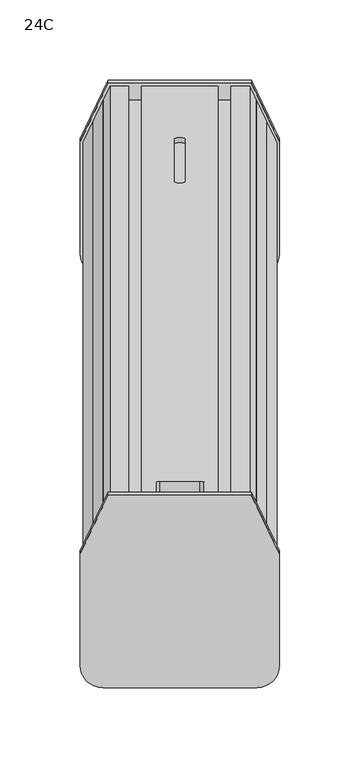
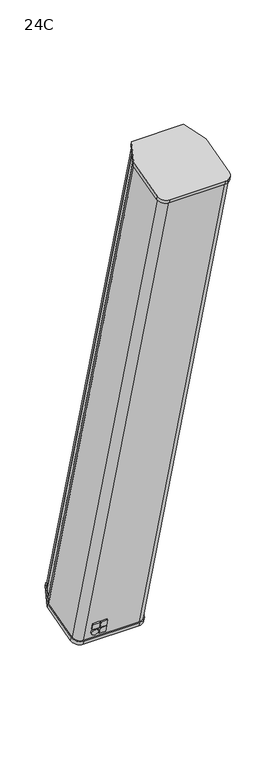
"""IFC4 building model written with IfcOpenShell, lengths in millimetres: proxy geometry, d&b xC-Series 24C Column : 24C."""

import ifcopenshell
import ifcopenshell.guid

model = None  # the IFC model being written
_history = None  # IfcOwnerHistory: only IFC2X3 demands one
_inside = {}  # id of a spatial element -> (the spatial element, [elements in it])
_under = {}  # id of a project, library or spatial element -> (it, [spatial elements below it])
_declared = {}  # id of a project -> (the project, [libraries it declares])
_typed = {}  # id of a type object -> (the type object, [elements of that type])
_made_of = {}  # id of a material, layer set ... -> (it, [elements and type objects made of it])


def new_model(schema):
    """Start an empty IFC model of exactly this schema.

    Asked for "IFC4X3", IfcOpenShell would pick the latest addendum, in which some entities
    have other attributes; the version numbers below select the first issue.
    IFC2X3 requires an IfcOwnerHistory on every rooted entity: one is made here for all.
    """
    global model, _history
    if schema == "IFC4X3":
        model = ifcopenshell.file(schema_version=(4, 3, 0, 0))
    else:
        model = ifcopenshell.file(schema=schema)
    _inside.clear()
    _under.clear()
    _declared.clear()
    _typed.clear()
    _made_of.clear()
    _history = None
    if model.schema == "IFC2X3":
        org = make("IfcOrganization", Name="unknown")
        user = make(
            "IfcPersonAndOrganization",
            ThePerson=make("IfcPerson", FamilyName="unknown"),
            TheOrganization=org,
        )
        app = make(
            "IfcApplication",
            ApplicationDeveloper=org,
            Version="unknown",
            ApplicationFullName="unknown",
            ApplicationIdentifier="unknown",
        )
        _history = make(
            "IfcOwnerHistory",
            OwningUser=user,
            OwningApplication=app,
            ChangeAction="ADDED",
            CreationDate=0,
        )
    return model


def make(cls, **values):
    """One entity of the class cls with the attributes given. An attribute that is None is left unset."""
    return model.create_entity(
        cls, **{name: value for name, value in values.items() if value is not None}
    )


def rooted(cls, **values):
    """An entity with a GlobalId (a new one), such as an element, a storey or a relation."""
    return make(cls, GlobalId=ifcopenshell.guid.new(), OwnerHistory=_history, **values)


def si_unit(unit_type, name, prefix=None):
    """IfcSIUnit, for example si_unit("LENGTHUNIT", "METRE", prefix="MILLI")."""
    return make("IfcSIUnit", UnitType=unit_type, Prefix=prefix, Name=name)


def assignment(units):
    """IfcUnitAssignment: the units of a project."""
    return None if units is None else make("IfcUnitAssignment", Units=units)


def point(xyz):
    """IfcCartesianPoint."""
    return None if xyz is None else make("IfcCartesianPoint", Coordinates=xyz)


def direction(xyz):
    """IfcDirection."""
    return None if xyz is None else make("IfcDirection", DirectionRatios=xyz)


def frame(location, z_axis=None, x_axis=None):
    """IfcAxis2Placement3D, a coordinate frame: its origin and axes. An axis left out is left unset."""
    return make(
        "IfcAxis2Placement3D",
        Location=point(location),
        Axis=direction(z_axis),
        RefDirection=direction(x_axis),
    )


def frame_2d(location, x_axis=None):
    """IfcAxis2Placement2D, a coordinate frame in the plane: its origin and x axis."""
    return make(
        "IfcAxis2Placement2D", Location=point(location), RefDirection=direction(x_axis)
    )


def origin():
    """The frame at (0, 0, 0) with its axes left unset."""
    return frame((0.0, 0.0, 0.0))


def place(relative_to, where):
    """IfcLocalPlacement: puts the frame where relative to a parent placement (None: the world)."""
    return make(
        "IfcLocalPlacement", PlacementRelTo=relative_to, RelativePlacement=where
    )


def context(
    kind, dimensions, precision=None, world=None, true_north=None, identifier=None
):
    """IfcGeometricRepresentationContext, for example the 3D "Model" context."""
    return make(
        "IfcGeometricRepresentationContext",
        ContextIdentifier=identifier,
        ContextType=kind,
        CoordinateSpaceDimension=dimensions,
        Precision=precision,
        WorldCoordinateSystem=world,
        TrueNorth=true_north,
    )


def project(units=None, contexts=None):
    """IfcProject with its units and contexts."""
    return rooted(
        "IfcProject",
        Name="project",
        RepresentationContexts=contexts,
        UnitsInContext=assignment(units),
    )


def spatial(cls, under=None, at=None, **own):
    """A site, building, storey or space (cls), placed at a placement, below another one or the project."""
    s = rooted(cls, ObjectPlacement=at, **own)
    if under is not None:
        _under.setdefault(under.id(), (under, []))[1].append(s)
    return s


def polyline(points):
    """IfcPolyline through the points."""
    return make("IfcPolyline", Points=[point(p) for p in points])


def circle_curve(where, radius):
    """IfcCircle in the frame where."""
    return make("IfcCircle", Position=where, Radius=radius)


def trimmed(basis, trim1, trim2, sense, master):
    """IfcTrimmedCurve: the piece of a basis curve between two trims."""
    return make(
        "IfcTrimmedCurve",
        BasisCurve=basis,
        Trim1=trim1,
        Trim2=trim2,
        SenseAgreement=sense,
        MasterRepresentation=master,
    )


def segment(curve, same_sense, transition):
    """IfcCompositeCurveSegment."""
    return make(
        "IfcCompositeCurveSegment",
        Transition=transition,
        SameSense=same_sense,
        ParentCurve=curve,
    )


def composite_curve(segments, self_intersect=None):
    """IfcCompositeCurve: segments joined end to end."""
    return make("IfcCompositeCurve", Segments=segments, SelfIntersect=self_intersect)


def outline(outer, holes=None, kind="AREA"):
    """IfcArbitraryClosedProfileDef: a profile drawn as a closed curve; with holes, ...WithVoids."""
    if holes is None:
        return make("IfcArbitraryClosedProfileDef", ProfileType=kind, OuterCurve=outer)
    return make(
        "IfcArbitraryProfileDefWithVoids",
        ProfileType=kind,
        OuterCurve=outer,
        InnerCurves=holes,
    )


def extrude(swept, where, along, depth):
    """IfcExtrudedAreaSolid: the profile swept, set in the frame where, extruded along a direction by depth."""
    return make(
        "IfcExtrudedAreaSolid",
        SweptArea=swept,
        Position=where,
        ExtrudedDirection=direction(along),
        Depth=depth,
    )


def shape(context_of_items, identifier, shape_type, items):
    """IfcShapeRepresentation: the items that make up one representation, for example the "Body"."""
    return make(
        "IfcShapeRepresentation",
        ContextOfItems=context_of_items,
        RepresentationIdentifier=identifier,
        RepresentationType=shape_type,
        Items=items,
    )


def source(mapping_origin, context_of_items, identifier, shape_type, items):
    """IfcRepresentationMap: a shape defined once, which mapped items show again and again."""
    return make(
        "IfcRepresentationMap",
        MappingOrigin=mapping_origin,
        MappedRepresentation=shape(context_of_items, identifier, shape_type, items),
    )


def transform(
    local_origin,
    x_axis=None,
    y_axis=None,
    z_axis=None,
    scale=None,
    scale2=None,
    scale3=None,
    uniform=True,
):
    """IfcCartesianTransformationOperator3D, or its non-uniform kind. x_axis, y_axis, z_axis: its Axis1, 2, 3."""
    if uniform:
        return make(
            "IfcCartesianTransformationOperator3D",
            Axis1=direction(x_axis),
            Axis2=direction(y_axis),
            LocalOrigin=point(local_origin),
            Scale=scale,
            Axis3=direction(z_axis),
        )
    return make(
        "IfcCartesianTransformationOperator3DnonUniform",
        Axis1=direction(x_axis),
        Axis2=direction(y_axis),
        LocalOrigin=point(local_origin),
        Scale=scale,
        Axis3=direction(z_axis),
        Scale2=scale2,
        Scale3=scale3,
    )


def mapped(mapping_source, mapping_target):
    """IfcMappedItem: shows the shape of a source again, moved by a transform."""
    return make(
        "IfcMappedItem", MappingSource=mapping_source, MappingTarget=mapping_target
    )


def made_of(thing, what):
    """Note that an element or type object is made of a material, layer set ...; save() writes the relation."""
    if what is not None:
        _made_of.setdefault(what.id(), (what, []))[1].append(thing)
    return thing


def element(
    cls,
    number,
    at=None,
    inside=None,
    cuts=None,
    type_object=None,
    material=None,
    context=None,
    identifier="Body",
    shape_type=None,
    held_by="IfcProductDefinitionShape",
    body=None,
    shapes=None,
    **own,
):
    """One element of the class cls, such as IfcWall. Its Tag is "e" and its number.

    at: its placement. inside: the storey or other place that contains it. cuts: it is an
    opening in that element (IfcRelVoidsElement). A single representation is given by context,
    identifier, shape_type and body (its items); several are given by shapes. held_by: the class
    of the entity that holds the representations. save() writes the other relations.
    """
    e = rooted(cls, Tag="e%d" % number, ObjectPlacement=at, **own)
    if body is not None:
        shapes = [shape(context, identifier, shape_type, body)]
    if shapes is not None:
        e.Representation = make(held_by, Representations=shapes)
    if inside is not None:
        _inside.setdefault(inside.id(), (inside, []))[1].append(e)
    if cuts is not None:
        rooted(
            "IfcRelVoidsElement", RelatingBuildingElement=cuts, RelatedOpeningElement=e
        )
    if type_object is not None:
        _typed.setdefault(type_object.id(), (type_object, []))[1].append(e)
    return made_of(e, material)


def aggregate(whole, parts):
    """IfcRelAggregates: a whole, such as a stair, and the parts it consists of."""
    return rooted("IfcRelAggregates", RelatingObject=whole, RelatedObjects=parts)


def save(model, path):
    """Write the relations noted so far, then the file.

    IfcRelAggregates (storeys below a building ...), IfcRelContainedInSpatialStructure (elements
    in a storey), IfcRelDefinesByType, IfcRelAssociatesMaterial and IfcRelDeclares: one each for
    every whole, place, type object, material and project.
    """
    for whole, parts in _under.values():
        aggregate(whole, parts)
    for where, things in _inside.values():
        rooted(
            "IfcRelContainedInSpatialStructure",
            RelatedElements=things,
            RelatingStructure=where,
        )
    for kind, things in _typed.values():
        rooted("IfcRelDefinesByType", RelatedObjects=things, RelatingType=kind)
    for what, things in _made_of.values():
        rooted("IfcRelAssociatesMaterial", RelatedObjects=things, RelatingMaterial=what)
    for by, libraries in _declared.values():
        rooted("IfcRelDeclares", RelatingContext=by, RelatedDefinitions=libraries)
    model.write(path)


def plane_surface(at):
    """IfcPlane: the flat surface through the origin of the frame at, square to its z axis."""
    return make("IfcPlane", Position=at)


def cylinder_surface(at, radius):
    """IfcCylindricalSurface: all points at the distance radius from the z axis of the frame at."""
    return make("IfcCylindricalSurface", Position=at, Radius=radius)


def revolved_surface(curve, axis_point, axis_direction):
    """IfcSurfaceOfRevolution: the curve turned about the line through axis_point along axis_direction."""
    return make(
        "IfcSurfaceOfRevolution",
        SweptCurve=make("IfcArbitraryOpenProfileDef", ProfileType="CURVE", Curve=curve),
        AxisPosition=make("IfcAxis1Placement", Location=point(axis_point), Axis=direction(axis_direction)),
    )


def advanced_brep(points, edges, surfaces, faces):
    """IfcAdvancedBrep: a solid bounded by faces that lie on surfaces and meet in shared edges.

    An edge is (start, end): straight between two places in points (the first is 0);
    or (start, end, curve); or (start, end, curve, False) where it runs against its curve.
    A face is (place in surfaces, loops), or (place, loops, False) where it looks against
    its surface's normal. A loop lists edges by number (the first is 1), with a minus sign
    where the edge is run from its end to its start. The first loop is the outer one.
    """
    corners = [point(p) for p in points]
    vertices = [make("IfcVertexPoint", VertexGeometry=c) for c in corners]
    made = []
    for start, end, *more in edges:
        made.append(
            make(
                "IfcEdgeCurve",
                EdgeStart=vertices[start],
                EdgeEnd=vertices[end],
                EdgeGeometry=more[0] if more else make("IfcPolyline", Points=[corners[start], corners[end]]),
                SameSense=more[1] if len(more) > 1 else True,
            )
        )
    hull = []
    for where, loops, *sense in faces:
        bounds = []
        for j, loop in enumerate(loops):
            ring = [make("IfcOrientedEdge", EdgeElement=made[abs(k) - 1], Orientation=k > 0) for k in loop]
            bounds.append(
                make(
                    "IfcFaceOuterBound" if j == 0 else "IfcFaceBound",
                    Bound=make("IfcEdgeLoop", EdgeList=ring),
                    Orientation=True,
                )
            )
        hull.append(make("IfcAdvancedFace", Bounds=bounds, FaceSurface=surfaces[where], SameSense=sense[0] if sense else True))
    return make("IfcAdvancedBrep", Outer=make("IfcClosedShell", CfsFaces=hull))


def proxy_24c_0f04a8cb(model_context):
    return source(origin(), model_context, "Body", "SolidModel", [
        extrude(outline(polyline([(-2.6999999, 0.0), (-2.6999999, -2.4999999), (-17.6861683, -2.5), (-17.6861684, 0.0), (-2.6999999, 0.0)])), frame((44.4204589, 178.383665, -462.593398), z_axis=(0.0, -0.2588190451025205, 0.9659258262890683), x_axis=(-0.4226182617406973, 0.8754260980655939, 0.23456971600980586)), (0.0, 0.0, 1.0), 986.0),
        extrude(outline(polyline([(35.8102678, 82.5855356), (26.1773443, 94.0656066), (28.0924555, 95.6725756), (37.7253788, 84.1925046), (35.8102678, 82.5855356)])), frame((44.4204589, 178.383665, -462.593398), z_axis=(0.0, -0.2588190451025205, 0.9659258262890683), x_axis=(-0.4226182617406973, 0.8754260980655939, 0.23456971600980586)), (0.0, 0.0, 1.0), 986.0),
        advanced_brep(
        [(-32.05, -69.4007582, 491.7952798), (-43.601115, -69.4007582, 491.7952798), (-47.8272976, -78.1550192, 489.4495827), (-45.5615282, -79.1755639, 489.1761285), (-51.8949566, -92.2948468, 485.6608273), (-54.1607261, -91.2743021, 485.9342814), (-60.5, -104.4056936, 482.4157357), (-60.5, -173.9256513, 463.7879191), (-48.212132, -185.7948203, 460.6075849), (48.212132, -185.7948203, 460.6075849), (60.5, -173.9256513, 463.7879191), (60.5, -104.4056936, 482.4157357), (54.1607261, -91.2743021, 485.9342814), (51.8949566, -92.2948468, 485.6608273), (45.5615282, -79.1755639, 489.1761285), (47.8272976, -78.1550192, 489.4495827), (43.601115, -69.4007582, 491.7952798), (32.05, -69.4007582, 491.7952798), (32.05, -71.5257958, 491.2258777), (36.2500003, -71.5257958, 491.2258777), (36.2500003, -74.1864047, 490.5129697), (32.2044662, -78.0940906, 489.4659084), (23.7999989, -78.0940906, 489.4659084), (19.7499997, -74.1820918, 490.5141254), (19.7499997, -71.5257958, 491.2258777), (23.95, -71.5257958, 491.2258777), (23.95, -69.4007582, 491.7952798), (15.0, -69.4007582, 491.7952798), (15.0, -79.0600165, 489.2070894), (-15.0, -79.0600165, 489.2070894), (-15.0, -69.4007582, 491.7952798), (-23.95, -69.4007582, 491.7952798), (-23.95, -71.5257958, 491.2258777), (-19.7499997, -71.5257958, 491.2258777), (-19.7499997, -74.1820918, 490.5141254), (-23.7999989, -78.0940906, 489.4659084), (-32.2044662, -78.0940906, 489.4659084), (-36.2500003, -74.1864047, 490.5129697), (-36.2500003, -71.5257958, 491.2258777), (-32.05, -71.5257958, 491.2258777), (-32.05, 185.7948203, -460.6075849), (-32.05, 183.6697827, -461.176987), (-36.2500003, 183.6697827, -461.176987), (-36.2500003, 181.0091737, -461.889895), (-32.2044662, 177.1014878, -462.9369563), (-23.7999989, 177.1014878, -462.9369563), (-19.7499997, 181.0134867, -461.8887394), (-19.7499997, 183.6697827, -461.176987), (-23.95, 183.6697827, -461.176987), (-23.95, 185.7948203, -460.6075849), (23.95, 185.7948203, -460.6075849), (23.95, 183.6697827, -461.176987), (19.7499997, 183.6697827, -461.176987), (19.7499997, 181.0134867, -461.8887394), (23.7999989, 177.1014878, -462.9369563), (32.2044662, 177.1014878, -462.9369563), (36.2500003, 181.0091737, -461.889895), (36.2500003, 183.6697827, -461.176987), (32.05, 183.6697827, -461.176987), (32.05, 185.7948203, -460.6075849), (43.601115, 185.7948203, -460.6075849), (47.8272976, 177.0405593, -462.9532821), (45.5615282, 176.0200146, -463.2267362), (51.8949566, 162.9007316, -466.7420375), (54.1607261, 163.9212764, -466.4685833), (60.5, 150.7898849, -469.9871291), (60.5, 81.2699272, -488.6149456), (48.212132, 69.4007582, -491.7952798), (-48.212132, 69.4007582, -491.7952798), (-60.5, 81.2699272, -488.6149456), (-60.5, 150.7898849, -469.9871291), (-54.1607261, 163.9212764, -466.4685833), (-51.8949566, 162.9007316, -466.7420375), (-45.5615282, 176.0200146, -463.2267362), (-47.8272976, 177.0405593, -462.9532821), (-43.601115, 185.7948203, -460.6075849), (-15.0, -61.2479583, 461.3686163), (-12.5, -60.6009107, 458.9538017), (12.5, -60.6009107, 458.9538017), (15.0, -61.2479583, 461.3686163), (-3.375, 126.3958494, -238.9276078), (-3.375, 152.6659825, -336.9690791), (3.375, 152.6659825, -336.9690791), (3.375, 126.3958494, -238.9276078), (15.0, -70.9072165, 458.7804258), (12.5, -70.2601689, 456.3656113), (-12.5, -70.2601689, 456.3656113), (-15.0, -70.9072165, 458.7804258), (-3.375, 149.5267236, -337.810241), (-3.375, 123.2565905, -239.7687697), (3.375, 123.2565905, -239.7687697), (3.375, 149.5267236, -337.810241)],
        [
            (0, 1),
            (1, 2),
            (2, 3),
            (3, 4),
            (4, 5),
            (5, 6),
            (6, 7),
            (7, 8, circle_curve(frame((-48.212132, -173.9256513, 463.7879191), z_axis=(0.0, -0.2588190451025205, 0.9659258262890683), x_axis=(-1.0, 0.0, 0.0)), 12.287868)),
            (8, 9),
            (9, 10, circle_curve(frame((48.212132, -173.9256513, 463.7879191), z_axis=(0.0, -0.2588190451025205, 0.9659258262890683), x_axis=(-1.0, 0.0, 0.0)), 12.287868)),
            (10, 11),
            (11, 12),
            (12, 13),
            (13, 14),
            (14, 15),
            (15, 16),
            (16, 17),
            (17, 18),
            (18, 19),
            (19, 20),
            (20, 21),
            (21, 22),
            (22, 23),
            (23, 24),
            (24, 25),
            (25, 26),
            (26, 27),
            (27, 28),
            (28, 29),
            (29, 30),
            (30, 31),
            (31, 32),
            (32, 33),
            (33, 34),
            (34, 35),
            (35, 36),
            (36, 37),
            (37, 38),
            (38, 39),
            (39, 0),
            (40, 41),
            (41, 42),
            (42, 43),
            (43, 44),
            (44, 45),
            (45, 46),
            (46, 47),
            (47, 48),
            (48, 49),
            (49, 50),
            (50, 51),
            (51, 52),
            (52, 53),
            (53, 54),
            (54, 55),
            (55, 56),
            (56, 57),
            (57, 58),
            (58, 59),
            (59, 60),
            (60, 61),
            (61, 62),
            (62, 63),
            (63, 64),
            (64, 65),
            (65, 66),
            (66, 67, circle_curve(frame((48.212132, 81.2699272, -488.6149456), z_axis=(0.0, 0.2588190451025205, -0.9659258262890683), x_axis=(-1.0, 0.0, 0.0)), 12.287868)),
            (67, 68),
            (68, 69, circle_curve(frame((-48.212132, 81.2699272, -488.6149456), z_axis=(0.0, 0.2588190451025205, -0.9659258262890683), x_axis=(-1.0, 0.0, 0.0)), 12.287868)),
            (69, 70),
            (70, 71),
            (71, 72),
            (72, 73),
            (73, 74),
            (74, 75),
            (75, 40),
            (0, 40),
            (75, 1),
            (6, 70),
            (69, 7),
            (68, 8),
            (67, 9),
            (66, 10),
            (65, 11),
            (64, 12),
            (16, 60),
            (59, 17),
            (58, 18),
            (57, 19),
            (56, 20),
            (55, 21),
            (54, 22),
            (53, 23),
            (52, 24),
            (51, 25),
            (50, 26),
            (49, 31),
            (30, 76),
            (76, 77, circle_curve(frame((-12.5, -61.2479583, 461.3686163), z_axis=(0.0, -0.9659258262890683, -0.2588190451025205), x_axis=(-1.0, 0.0, 0.0)), 2.5)),
            (77, 78),
            (78, 79, circle_curve(frame((12.5, -61.2479583, 461.3686163), z_axis=(0.0, -0.9659258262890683, -0.2588190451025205), x_axis=(-1.0, 0.0, 0.0)), 2.5)),
            (79, 27),
            (80, 81),
            (81, 82, circle_curve(frame((0.0, 152.6659825, -336.9690791), z_axis=(0.0, -0.9659258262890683, -0.2588190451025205), x_axis=(-1.0, 0.0, 0.0)), 3.375)),
            (82, 83),
            (83, 80, circle_curve(frame((0.0, 126.3958494, -238.9276078), z_axis=(0.0, -0.9659258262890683, -0.2588190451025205), x_axis=(-1.0, 0.0, 0.0)), 3.375)),
            (48, 32),
            (47, 33),
            (46, 34),
            (45, 35),
            (44, 36),
            (43, 37),
            (42, 38),
            (41, 39),
            (84, 85, circle_curve(frame((12.5, -70.9072165, 458.7804258), z_axis=(0.0, 0.9659258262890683, 0.2588190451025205), x_axis=(-1.0, 0.0, 0.0)), 2.5)),
            (85, 86),
            (86, 87, circle_curve(frame((-12.5, -70.9072165, 458.7804258), z_axis=(0.0, 0.9659258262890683, 0.2588190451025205), x_axis=(-1.0, 0.0, 0.0)), 2.5)),
            (87, 29),
            (28, 84),
            (84, 79),
            (78, 85),
            (77, 86),
            (76, 87),
            (88, 89),
            (89, 90, circle_curve(frame((0.0, 123.2565905, -239.7687697), z_axis=(0.0, 0.9659258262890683, 0.2588190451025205), x_axis=(-1.0, 0.0, 0.0)), 3.375)),
            (90, 91),
            (91, 88, circle_curve(frame((0.0, 149.5267236, -337.810241), z_axis=(0.0, 0.9659258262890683, 0.2588190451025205), x_axis=(-1.0, 0.0, 0.0)), 3.375)),
            (88, 81),
            (80, 89),
            (83, 90),
            (82, 91),
            (63, 13),
            (62, 14),
            (61, 15),
            (74, 2),
            (73, 3),
            (72, 4),
            (71, 5),
        ],
        [
            plane_surface(frame((-42.0084394, -69.4007582, 491.7952798), z_axis=(0.0, -0.2588190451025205, 0.9659258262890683), x_axis=(-1.0, 0.0, 0.0))),
            plane_surface(frame((-42.0084394, 185.7948203, -460.6075849), z_axis=(0.0, 0.2588190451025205, -0.9659258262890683), x_axis=(1.0, 0.0, 0.0))),
            plane_surface(frame((-32.05, -69.4007582, 491.7952798), z_axis=(0.0, 0.9659258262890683, 0.2588190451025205), x_axis=(0.0, 0.2588190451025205, -0.9659258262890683))),
            plane_surface(frame((-60.5, -104.4056936, 482.4157357), z_axis=(-1.0, 0.0, 0.0), x_axis=(0.0, 0.2588190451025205, -0.9659258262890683))),
            cylinder_surface(frame((-48.212132, 81.2699272, -488.6149456), z_axis=(0.0, -0.2588190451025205, 0.9659258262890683), x_axis=(-1.0, 0.0, 0.0)), 12.287868),
            plane_surface(frame((-48.212132, -185.7948203, 460.6075849), z_axis=(0.0, -0.9659258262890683, -0.2588190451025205), x_axis=(0.0, 0.2588190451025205, -0.9659258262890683))),
            cylinder_surface(frame((48.212132, 81.2699272, -488.6149456), z_axis=(0.0, -0.2588190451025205, 0.9659258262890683), x_axis=(-1.0, 0.0, 0.0)), 12.287868),
            plane_surface(frame((60.5, -173.9256513, 463.7879191), z_axis=(1.0, 0.0, 0.0), x_axis=(0.0, 0.2588190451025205, -0.9659258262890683))),
            plane_surface(frame((60.5, -104.4056936, 482.4157357), z_axis=(0.9063077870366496, 0.40821789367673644, 0.1093816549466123), x_axis=(0.0, 0.2588190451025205, -0.9659258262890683))),
            plane_surface(frame((43.601115, -69.4007582, 491.7952798), z_axis=(0.0, 0.9659258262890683, 0.2588190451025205), x_axis=(0.0, 0.2588190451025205, -0.9659258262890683))),
            plane_surface(frame((32.05, -69.4007582, 491.7952798), z_axis=(-1.0, 0.0, 0.0), x_axis=(0.0, 0.2588190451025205, -0.9659258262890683))),
            plane_surface(frame((32.05, -71.5257958, 491.2258777), z_axis=(0.0, -0.9659258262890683, -0.2588190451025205), x_axis=(0.0, 0.2588190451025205, -0.9659258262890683))),
            plane_surface(frame((36.2500003, -71.5257958, 491.2258777), z_axis=(-1.0, 0.0, 0.0), x_axis=(0.0, 0.2588190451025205, -0.9659258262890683))),
            plane_surface(frame((36.2500003, -74.1864047, 490.5129697), z_axis=(-0.7071067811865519, 0.6830127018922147, 0.18301270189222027), x_axis=(0.0, 0.2588190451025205, -0.9659258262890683))),
            plane_surface(frame((32.2044662, -78.0940906, 489.4659084), z_axis=(0.0, 0.9659258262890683, 0.2588190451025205), x_axis=(0.0, 0.2588190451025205, -0.9659258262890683))),
            plane_surface(frame((23.7999989, -78.0940906, 489.4659084), z_axis=(0.7071067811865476, 0.6830127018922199, 0.18301270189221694), x_axis=(0.0, 0.2588190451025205, -0.9659258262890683))),
            plane_surface(frame((19.7499997, -74.1820918, 490.5141254), z_axis=(1.0, 0.0, 0.0), x_axis=(0.0, 0.2588190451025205, -0.9659258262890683))),
            plane_surface(frame((19.7499997, -71.5257958, 491.2258777), z_axis=(0.0, -0.9659258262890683, -0.2588190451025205), x_axis=(0.0, 0.2588190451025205, -0.9659258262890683))),
            plane_surface(frame((23.95, -71.5257958, 491.2258777), z_axis=(1.0, 0.0, 0.0), x_axis=(0.0, 0.2588190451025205, -0.9659258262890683))),
            plane_surface(frame((23.95, -69.4007582, 491.7952798), z_axis=(0.0, 0.9659258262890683, 0.2588190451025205), x_axis=(0.0, 0.2588190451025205, -0.9659258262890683))),
            plane_surface(frame((-23.95, -69.4007582, 491.7952798), z_axis=(-1.0, 0.0, 0.0), x_axis=(0.0, 0.2588190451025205, -0.9659258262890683))),
            plane_surface(frame((-23.95, -71.5257958, 491.2258777), z_axis=(0.0, -0.9659258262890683, -0.2588190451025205), x_axis=(0.0, 0.2588190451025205, -0.9659258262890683))),
            plane_surface(frame((-19.7499997, -71.5257958, 491.2258777), z_axis=(-1.0, 0.0, 0.0), x_axis=(0.0, 0.2588190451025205, -0.9659258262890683))),
            plane_surface(frame((-19.7499997, -74.1820918, 490.5141254), z_axis=(-0.707106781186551, 0.6830127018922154, 0.18301270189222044), x_axis=(0.0, 0.2588190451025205, -0.9659258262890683))),
            plane_surface(frame((-23.7999989, -78.0940906, 489.4659084), z_axis=(0.0, 0.9659258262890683, 0.2588190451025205), x_axis=(0.0, 0.2588190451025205, -0.9659258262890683))),
            plane_surface(frame((-32.2044662, -78.0940906, 489.4659084), z_axis=(0.7071067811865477, 0.6830127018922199, 0.18301270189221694), x_axis=(0.0, 0.2588190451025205, -0.9659258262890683))),
            plane_surface(frame((-36.2500003, -74.1864047, 490.5129697), z_axis=(1.0, 0.0, 0.0), x_axis=(0.0, 0.2588190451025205, -0.9659258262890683))),
            plane_surface(frame((-36.2500003, -71.5257958, 491.2258777), z_axis=(0.0, -0.9659258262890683, -0.2588190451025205), x_axis=(0.0, 0.2588190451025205, -0.9659258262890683))),
            plane_surface(frame((-32.05, -71.5257958, 491.2258777), z_axis=(1.0, 0.0, 0.0), x_axis=(0.0, 0.2588190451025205, -0.9659258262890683))),
            plane_surface(frame((10.0, -70.9072165, 458.7804258), z_axis=(0.0, 0.9659258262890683, 0.2588190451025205), x_axis=(0.0, 0.2588190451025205, -0.9659258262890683))),
            revolved_surface(polyline([(10.0, -61.247958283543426, 461.36861623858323), (10.0, -70.9072165, 458.7804258)]), (12.5, -70.9072165, 458.7804258), (0.0, 0.9659258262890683, 0.2588190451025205)),
            plane_surface(frame((12.5, -58.9105405, 459.4067351), z_axis=(0.0, -0.2588190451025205, 0.9659258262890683), x_axis=(0.0, -0.9659258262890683, -0.2588190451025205))),
            revolved_surface(polyline([(-15.0, -61.247958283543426, 461.36861623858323), (-15.0, -70.9072165, 458.7804258)]), (-12.5, -70.9072165, 458.7804258), (0.0, 0.9659258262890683, 0.2588190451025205)),
            plane_surface(frame((-15.0, -59.5575881, 461.8215496), z_axis=(1.0, 0.0, 0.0), x_axis=(0.0, -0.9659258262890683, -0.2588190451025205))),
            plane_surface(frame((15.0, -67.710388, 492.2482132), z_axis=(-1.0, 0.0, 0.0), x_axis=(0.0, -0.9659258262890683, -0.2588190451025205))),
            plane_surface(frame((-3.375, 129.3102843, -262.3614626), z_axis=(0.0, 0.9659258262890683, 0.2588190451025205), x_axis=(0.0, 0.2588190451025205, -0.9659258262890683))),
            plane_surface(frame((-3.375, 154.3563527, -336.5161458), z_axis=(1.0, 0.0, 0.0), x_axis=(0.0, -0.9659258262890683, -0.2588190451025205))),
            revolved_surface(polyline([(-3.375, 126.3958494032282, -238.9276078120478), (-3.375, 123.2565905, -239.7687697)]), (0.0, 123.2565905, -239.7687697), (0.0, 0.9659258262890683, 0.2588190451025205)),
            plane_surface(frame((3.375, 128.0862196, -238.4746744), z_axis=(-1.0, 0.0, 0.0), x_axis=(0.0, -0.9659258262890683, -0.2588190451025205))),
            revolved_surface(polyline([(-3.375, 152.6659825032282, -336.9690791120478), (-3.375, 149.5267236, -337.810241)]), (0.0, 149.5267236, -337.810241), (0.0, 0.9659258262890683, 0.2588190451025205)),
            plane_surface(frame((54.1607261, -91.2743021, 485.9342814), z_axis=(-0.4226182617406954, 0.8754260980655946, 0.23456971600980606), x_axis=(0.0, 0.2588190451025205, -0.9659258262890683))),
            plane_surface(frame((51.8949566, -92.2948468, 485.6608273), z_axis=(0.9063077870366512, 0.4082178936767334, 0.10938165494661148), x_axis=(0.0, 0.2588190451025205, -0.9659258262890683))),
            plane_surface(frame((45.5615282, -79.1755639, 489.1761285), z_axis=(0.42261826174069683, -0.8754260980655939, -0.2345697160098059), x_axis=(0.0, 0.2588190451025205, -0.9659258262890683))),
            plane_surface(frame((47.8272976, -78.1550192, 489.4495827), z_axis=(0.9063077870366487, 0.40821789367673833, 0.1093816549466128), x_axis=(0.0, 0.2588190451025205, -0.9659258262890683))),
            plane_surface(frame((-43.601115, -69.4007582, 491.7952798), z_axis=(-0.9063077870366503, 0.4082178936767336, 0.10938165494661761), x_axis=(0.0, 0.2588190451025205, -0.9659258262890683))),
            plane_surface(frame((-47.8272976, -78.1550192, 489.4495827), z_axis=(-0.42261826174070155, -0.8754260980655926, -0.23456971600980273), x_axis=(0.0, 0.2588190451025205, -0.9659258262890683))),
            plane_surface(frame((-45.5615282, -79.1755639, 489.1761285), z_axis=(-0.9063077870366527, 0.40821789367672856, 0.10938165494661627), x_axis=(0.0, 0.2588190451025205, -0.9659258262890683))),
            plane_surface(frame((-51.8949566, -92.2948468, 485.6608273), z_axis=(0.42261826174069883, 0.8754260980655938, 0.23456971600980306), x_axis=(0.0, 0.2588190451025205, -0.9659258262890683))),
            plane_surface(frame((-54.1607261, -91.2743021, 485.9342814), z_axis=(-0.9063077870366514, 0.4082178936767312, 0.10938165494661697), x_axis=(0.0, 0.2588190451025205, -0.9659258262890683))),
        ],
        [
            (0, [[1, 2, 3, 4, 5, 6, 7, 8, 9, 10, 11, 12, 13, 14, 15, 16, 17, 18, 19, 20, 21, 22, 23, 24, 25, 26, 27, 28, 29, 30, 31, 32, 33, 34, 35, 36, 37, 38, 39, 40]]),
            (1, [[41, 42, 43, 44, 45, 46, 47, 48, 49, 50, 51, 52, 53, 54, 55, 56, 57, 58, 59, 60, 61, 62, 63, 64, 65, 66, 67, 68, 69, 70, 71, 72, 73, 74, 75, 76]]),
            (2, [[-1, 77, -76, 78]]),
            (3, [[-7, 79, -70, 80]]),
            (4, [[-8, -80, -69, 81]]),
            (5, [[-9, -81, -68, 82]]),
            (6, [[-10, -82, -67, 83]]),
            (7, [[-11, -83, -66, 84]]),
            (8, [[-12, -84, -65, 85]]),
            (9, [[-17, 86, -60, 87]]),
            (10, [[-18, -87, -59, 88]]),
            (11, [[-19, -88, -58, 89]]),
            (12, [[-20, -89, -57, 90]]),
            (13, [[-21, -90, -56, 91]]),
            (14, [[-22, -91, -55, 92]]),
            (15, [[-23, -92, -54, 93]]),
            (16, [[-24, -93, -53, 94]]),
            (17, [[-25, -94, -52, 95]]),
            (18, [[-26, -95, -51, 96]]),
            (19, [[-50, 97, -31, 98, 99, 100, 101, 102, -27, -96], [103, 104, 105, 106]]),
            (20, [[-32, -97, -49, 107]]),
            (21, [[-33, -107, -48, 108]]),
            (22, [[-34, -108, -47, 109]]),
            (23, [[-35, -109, -46, 110]]),
            (24, [[-36, -110, -45, 111]]),
            (25, [[-37, -111, -44, 112]]),
            (26, [[-38, -112, -43, 113]]),
            (27, [[-39, -113, -42, 114]]),
            (28, [[-40, -114, -41, -77]]),
            (29, [[115, 116, 117, 118, -29, 119]]),
            (30, [[-115, 120, -101, 121]]),
            (31, [[-116, -121, -100, 122]]),
            (32, [[-117, -122, -99, 123]]),
            (33, [[-118, -123, -98, -30]]),
            (34, [[-119, -28, -102, -120]]),
            (35, [[124, 125, 126, 127]]),
            (36, [[-124, 128, -103, 129]]),
            (37, [[-125, -129, -106, 130]]),
            (38, [[-126, -130, -105, 131]]),
            (39, [[-127, -131, -104, -128]]),
            (40, [[-13, -85, -64, 132]]),
            (41, [[-14, -132, -63, 133]]),
            (42, [[-15, -133, -62, 134]]),
            (43, [[-16, -134, -61, -86]]),
            (44, [[-2, -78, -75, 135]]),
            (45, [[-3, -135, -74, 136]]),
            (46, [[-4, -136, -73, 137]]),
            (47, [[-5, -137, -72, 138]]),
            (48, [[-6, -138, -71, -79]]),
        ],
    ),
        extrude(outline(polyline([(0.0, -11.6666666), (0.0, 0.0), (2.5, 0.0), (2.5, -11.6666666), (0.0, -11.6666666)])), frame((-26.5454654, 61.671277, -469.7099439), z_axis=(0.0, -0.2588190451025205, 0.9659258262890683), x_axis=(0.0, -0.9659258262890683, -0.2588190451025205)), (0.0, 0.0, 1.0), 11.6666667),
        extrude(outline(polyline([(0.0, -11.6666667), (0.0, 0.0), (2.5, 0.0), (2.5, -11.6666667), (0.0, -11.6666667)])), frame((-13.212132, 61.671277, -469.7099439), z_axis=(0.0, -0.2588190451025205, 0.9659258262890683), x_axis=(0.0, -0.9659258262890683, -0.2588190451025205)), (0.0, 0.0, 1.0), 11.6666667),
        extrude(outline(polyline([(0.0, -11.6666667), (0.0, 0.0), (2.5, 0.0), (2.5, -11.6666667), (0.0, -11.6666667)])), frame((-13.212132, 65.1221976, -482.5889549), z_axis=(0.0, -0.2588190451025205, 0.9659258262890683), x_axis=(0.0, -0.9659258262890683, -0.2588190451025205)), (0.0, 0.0, 1.0), 11.6666667),
        extrude(outline(composite_curve([segment(trimmed(circle_curve(frame_2d((-0.9849738, -5.8333333)), 5.8333333), [point((-0.9849738, 0.0))], [point((-0.9849738, -11.6666666))], False, "CARTESIAN"), True, "CONTINUOUS"), segment(trimmed(circle_curve(frame_2d((-0.9849738, -5.8333333)), 5.8333333), [point((-0.9849738, -11.6666666))], [point((-0.9849738, 0.0))], False, "CARTESIAN"), True, "CONTINUOUS")], self_intersect=False)), frame((-26.5454654, 60.9426752, -476.6500236), z_axis=(0.0, 0.9659258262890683, 0.2588190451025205), x_axis=(0.0, -0.2588190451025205, 0.9659258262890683)), (0.0, 0.0, 1.0), 2.5),
        extrude(outline(composite_curve([segment(polyline([(235.2985882, 0.0), (252.8326002, -37.6018101), (252.8326002, -109.7500001)]), True, "CONTINUOUS"), segment(trimmed(circle_curve(frame_2d((238.5826002, -109.7500001)), 14.25), [point((252.8326002, -109.7500001))], [point((238.5826002, -124.0))], False, "CARTESIAN"), True, "CONTINUOUS"), segment(polyline([(238.5826002, -124.0), (142.5826002, -124.0)]), True, "CONTINUOUS"), segment(trimmed(circle_curve(frame_2d((142.5826002, -109.7500001)), 14.25), [point((142.5826002, -124.0))], [point((128.3326002, -109.7500001))], False, "CARTESIAN"), True, "CONTINUOUS"), segment(polyline([(128.3326002, -109.7500001), (128.3326002, -37.6018101), (145.8666122, 0.0), (235.2985882, 0.0)]), True, "CONTINUOUS")], self_intersect=False)), frame((-190.5826002, 189.2969238, -466.9161323), z_axis=(0.0, -0.2588190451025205, 0.9659258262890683), x_axis=(1.0, 0.0, 0.0)), (0.0, 0.0, 1.0), 7.0),
        extrude(outline(composite_curve([segment(polyline([(235.2985882, 0.0), (252.8326002, -37.6018101), (252.8326002, -109.75)]), True, "CONTINUOUS"), segment(trimmed(circle_curve(frame_2d((238.5826002, -109.75)), 14.25), [point((252.8326002, -109.75))], [point((238.5826002, -124.0))], False, "CARTESIAN"), True, "CONTINUOUS"), segment(polyline([(238.5826002, -124.0), (142.5826002, -124.0)]), True, "CONTINUOUS"), segment(trimmed(circle_curve(frame_2d((142.5826002, -109.75)), 14.25), [point((142.5826002, -124.0))], [point((128.3326002, -109.75))], False, "CARTESIAN"), True, "CONTINUOUS"), segment(polyline([(128.3326002, -109.75), (128.3326002, -37.6018101), (145.8666122, 0.0), (235.2985882, 0.0)]), True, "CONTINUOUS")], self_intersect=False)), frame((-190.5826002, -67.710388, 492.2482132), z_axis=(0.0, -0.2588190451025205, 0.9659258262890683), x_axis=(1.0, 0.0, 0.0)), (0.0, 0.0, 1.0), 7.0),
    ])


if __name__ == "__main__":
    model = new_model("IFC4")
    model_context = context("Model", 3, world=origin())
    ifc_project = project(units=[si_unit("LENGTHUNIT", "METRE", prefix="MILLI")], contexts=[model_context])
    site = spatial("IfcSite", under=ifc_project)
    building = spatial("IfcBuilding", under=site)
    placement = place(None, origin())
    proxy_24c_shape = proxy_24c_0f04a8cb(model_context)
    element("IfcBuildingElementProxy", 1, Name="d&b xC-Series 24C Column : 24C", ObjectType="d&b xC-Series 24C Column : 24C", at=placement, inside=building, context=model_context, shape_type="MappedRepresentation", body=[
        mapped(proxy_24c_shape, transform((0.0, 0.0, 0.0), x_axis=(1.0, 0.0, 0.0), y_axis=(0.0, 1.0, 0.0), z_axis=(0.0, 0.0, 1.0))),
    ])
    save(model, "model.ifc")
